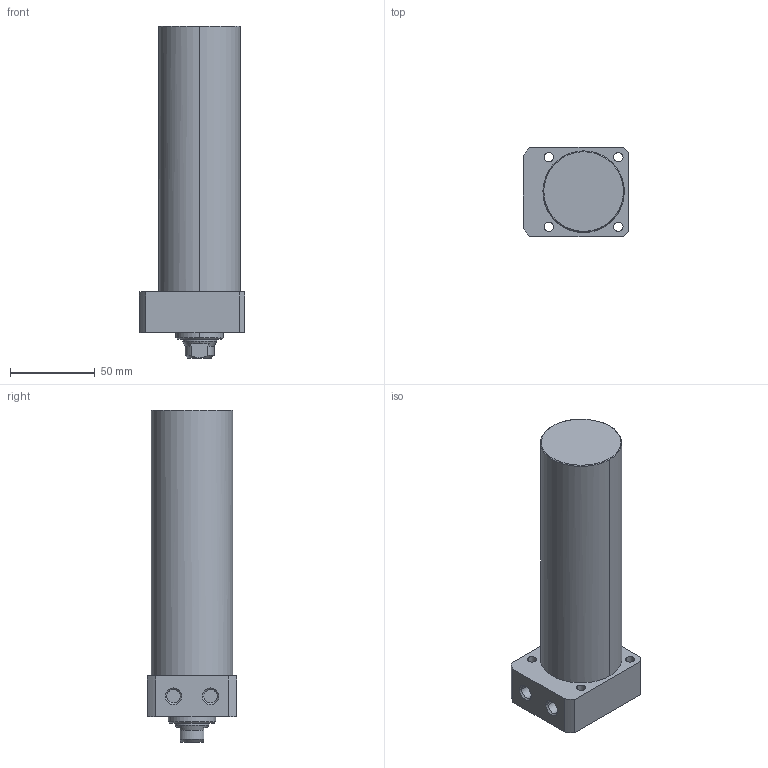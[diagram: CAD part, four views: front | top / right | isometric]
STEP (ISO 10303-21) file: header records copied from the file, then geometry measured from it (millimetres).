
FILE_DESCRIPTION((' '),'2;1');
FILE_NAME( 'TLLR-048CA-130.STEP.stp', '2025-10-24T16:34:32', (' '), ('--- Datakit www.datakit.com---'), ' Datakit CrossCadWare V2024.1 Dec 21 2023', 'Mastercam 2025', ' ');
FILE_SCHEMA(('AUTOMOTIVE_DESIGN { 1 0 10303 214 1 1 1 1 }'));
Length unit declared in the file: millimetre
Products named in the file (1): TLLR-048CA-130
Bounding box: 62 x 53 x 196 mm (x, y, z)
Volume: 362450.6 mm3; surface area: 39038.5 mm2
Topology: 1 solids, 1 shells, 63 faces, 177 edges, 122 vertices
Faces by surface type: cylinder 28, plane 19, cone 14, torus 2
Entity records: 2172 total; most frequent: CARTESIAN_POINT 409, DIRECTION 400, ORIENTED_EDGE 350, EDGE_CURVE 175, AXIS2_PLACEMENT_3D 169, VERTEX_POINT 122, CIRCLE 105, EDGE_LOOP 79
